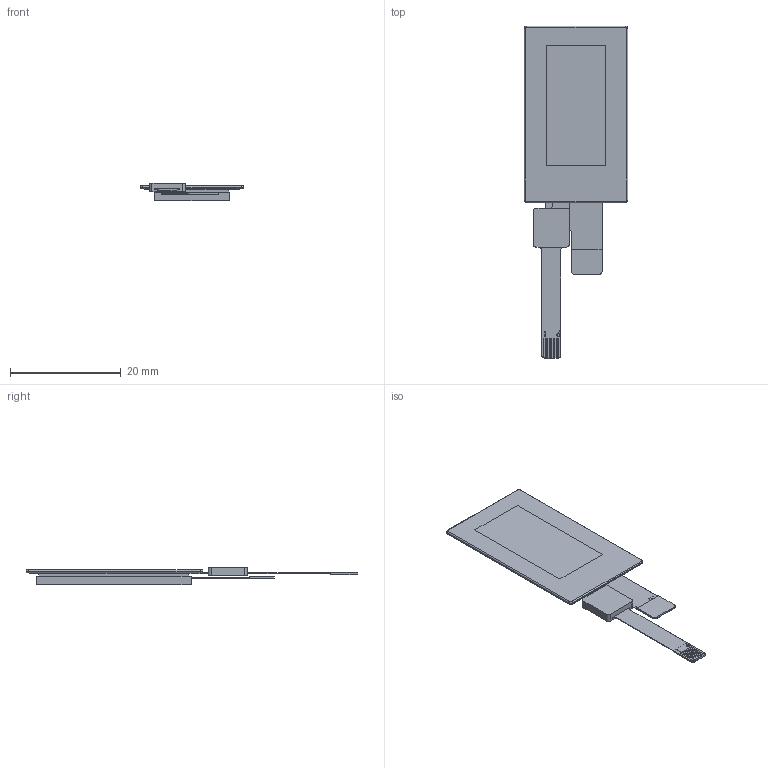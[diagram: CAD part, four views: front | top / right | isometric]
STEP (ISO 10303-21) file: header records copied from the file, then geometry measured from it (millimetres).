
FILE_DESCRIPTION (( 'STEP AP214' ), '1' );
FILE_NAME ('CFAF80160A0-0096TW.STEP', '2023-08-03T21:12:25', ( '' ), ( '' ), 'SwSTEP 2.0', 'SolidWorks 2021', '' );
FILE_SCHEMA (( 'AUTOMOTIVE_DESIGN' ));
Length unit declared in the file: millimetre
Products named in the file (3): CFAF80160A0-0096TW; TW cap touch; CFAF80160A0-0096TN
Assembly tree (2 placements, depth 2):
  CFAF80160A0-0096TW
    CFAF80160A0-0096TN
    TW cap touch
Bounding box: 18.7 x 59.9 x 3.1 mm (x, y, z)
Volume: 1213.1 mm3; surface area: 2722.1 mm2
Topology: 13 solids, 13 shells, 449 faces, 1136 edges, 756 vertices
Faces by surface type: plane 297, bspline 116, cylinder 28, torus 8
Entity records: 21241 total; most frequent: CARTESIAN_POINT 10926, ORIENTED_EDGE 2272, DIRECTION 1646, EDGE_CURVE 1136, VECTOR 838, LINE 838, VERTEX_POINT 756, EDGE_LOOP 492
